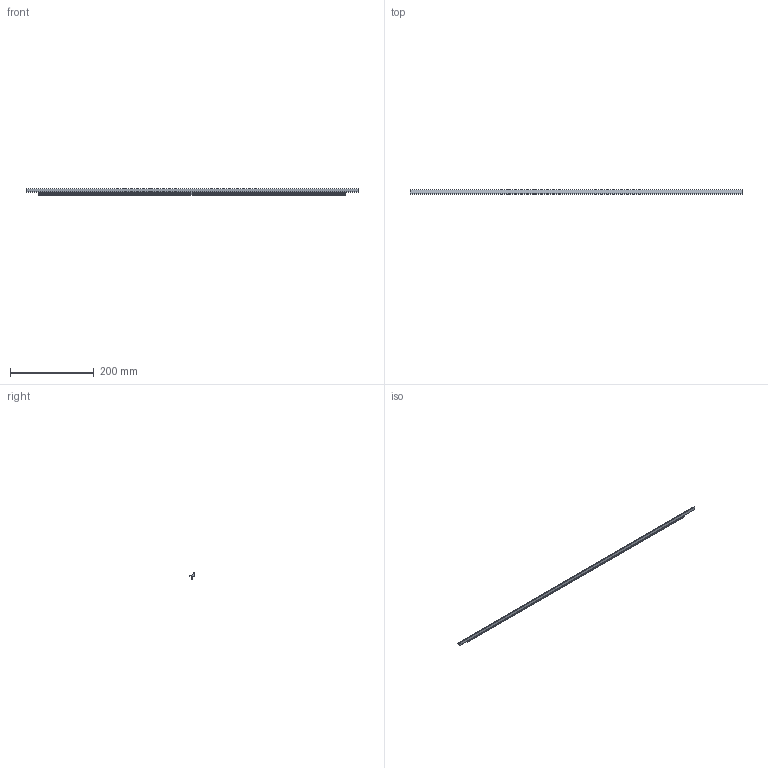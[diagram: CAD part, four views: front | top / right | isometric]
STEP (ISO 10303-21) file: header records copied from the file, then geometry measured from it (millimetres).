
FILE_DESCRIPTION( ( 'STEP AP214' ), '1' );
FILE_NAME( 'C:/Users/KOSH/Desktop/2021/Sunil/New folder/9208102.stp', '2021-11-15T12:57:43', ( '' ), ( '' ), ' ', 'PARTsolutions', ' ' );
FILE_SCHEMA( ( 'AUTOMOTIVE_DESIGN { 1 0 10303 214 1 1 1 1 }' ) );
Length unit declared in the file: millimetre
Products named in the file (1): _9208102
Bounding box: 795 x 10.48 x 16.51 mm (x, y, z)
Volume: 43239.1 mm3; surface area: 40334.3 mm2
Topology: 1 solids, 1 shells, 29 faces, 78 edges, 52 vertices
Faces by surface type: plane 25, cylinder 4
Entity records: 1148 total; most frequent: CARTESIAN_POINT 160, ORIENTED_EDGE 156, DIRECTION 146, EDGE_CURVE 78, LINE 70, VECTOR 70, VERTEX_POINT 52, AXIS2_PLACEMENT_3D 38
